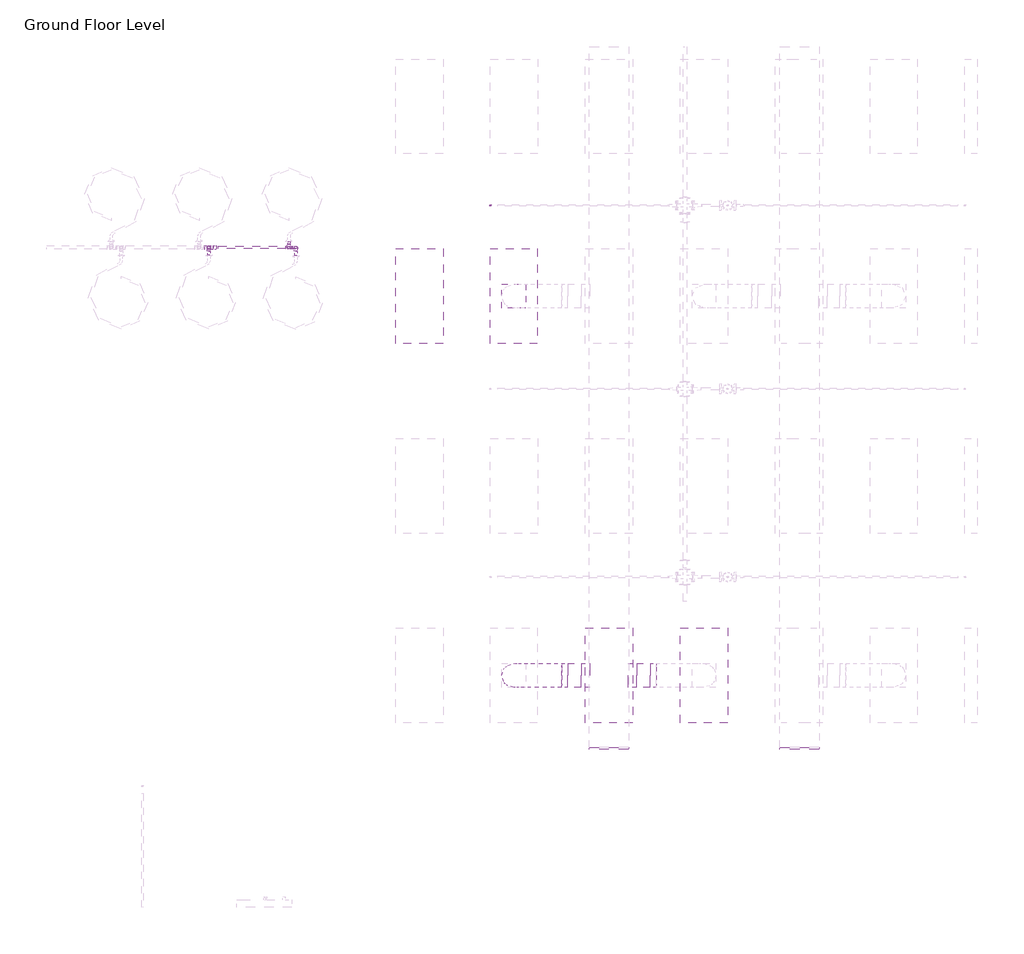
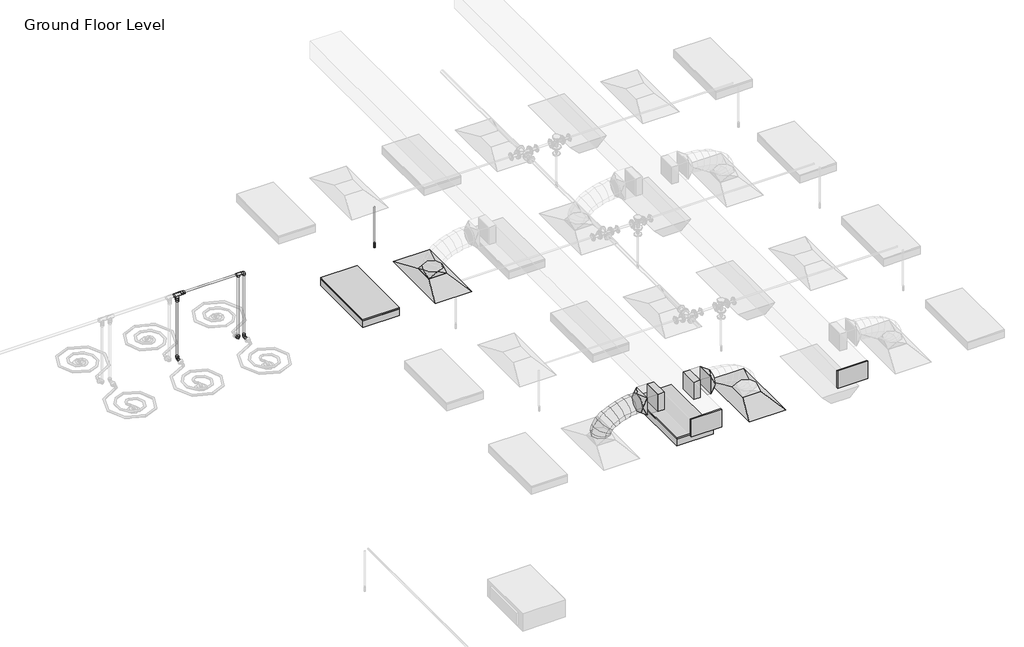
# One storey, part 43 of 66: 9 pipe segments, 8 pipe fittings, 7 duct fittings, 3 duct segments, 2 air terminals, 2 light fixtures, 1 fire suppression terminal.
"""IFC4 building model written with IfcOpenShell, lengths in millimetres."""

from ifc_helpers import new_model, si_unit, point, frame, frame_2d, origin, place, context, project, spatial, polyline, circle_curve, ellipse_curve, trimmed, segment, composite_curve, outline, extrude, transform, mapped, element, save
from ifc_brep_helpers import plane_surface, cylinder_surface, advanced_brep
from components import m_return_diffuser_1200x600_1200_x_600_face_300_x_300_d1983ef6, m_rectangular_endcap_standard_72d4d00d, m_rectangular_takeoff_standard_cb0ccb98, m_rectangular_takeoff_standard_2be5eba1, m_rectangular_to_round_transition_angle_45_degree_641efff0, m_sprinkler_dry_pendent_hosted_15_mm_dry_pendent_9bda8e11, m_troffer_light_parabolic_rectangular1_0600x1200mm_4_lamp_86473d4a, standard_517a5a8d, standard_72b35c3b, standard_08ff6011, standard_d0d0b892

model = new_model("IFC4")

# Units and contexts
model_context = context("Model", 3, world=origin())
ifc_project = project(units=[si_unit("LENGTHUNIT", "METRE", prefix="MILLI")], contexts=[model_context])

# Site, building, storey
site = spatial("IfcSite", under=ifc_project)
building = spatial("IfcBuilding", under=site)
storey = spatial("IfcBuildingStorey", under=building, Name="Ground Floor Level", Elevation=900.0)

# Air terminals
placement = place(None, origin())
m_return_diffuser_1200x600_1200_x_600_face_300_x_300_shape = m_return_diffuser_1200x600_1200_x_600_face_300_x_300_d1983ef6(model_context)
element("IfcAirTerminal", 1, ObjectType="M_Supply Diffuser 1200x600 : 1200 x 600 Face 300 x 300 Connection", at=placement, inside=storey, context=model_context, shape_type="MappedRepresentation", body=[
    mapped(m_return_diffuser_1200x600_1200_x_600_face_300_x_300_shape, transform((-8142.6846929, 6435.2153534, 3650.0), x_axis=(0.0, 1.0, 0.0), y_axis=(-1.0, 0.0, 0.0), z_axis=(0.0, 0.0, 1.0))),
])
element("IfcAirTerminal", 2, ObjectType="M_Supply Diffuser 1200x600 : 1200 x 600 Face 300 x 300 Connection", at=placement, inside=storey, context=model_context, shape_type="MappedRepresentation", body=[
    mapped(m_return_diffuser_1200x600_1200_x_600_face_300_x_300_shape, transform((-5737.2327605, 1635.2153534, 3650.0), x_axis=(0.0, 1.0, 0.0), y_axis=(-1.0, 0.0, 0.0), z_axis=(0.0, 0.0, 1.0))),
])

# Duct fittings
m_rectangular_endcap_standard_shape = m_rectangular_endcap_standard_72d4d00d(model_context)
element("IfcDuctFitting", 3, ObjectType="M_Rectangular Endcap : Standard", at=placement, inside=storey, context=model_context, shape_type="MappedRepresentation", body=[
    mapped(m_rectangular_endcap_standard_shape, transform((-4528.6910789, 725.2312455, 4150.0403557), x_axis=(0.0, -0.999999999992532, 3.864729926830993e-06), y_axis=(1.0, 0.0, 0.0), z_axis=(0.0, 3.864729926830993e-06, 0.999999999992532))),
])
element("IfcDuctFitting", 4, ObjectType="M_Rectangular Endcap : Standard", at=placement, inside=storey, context=model_context, shape_type="MappedRepresentation", body=[
    mapped(m_rectangular_endcap_standard_shape, transform((-6939.6910789, 725.2153534, 4150.0), x_axis=(0.0, -1.0, 0.0), y_axis=(1.0, 0.0, 0.0), z_axis=(0.0, 0.0, 1.0))),
])
m_rectangular_takeoff_standard_shape = m_rectangular_takeoff_standard_cb0ccb98(model_context)
element("IfcDuctFitting", 5, ObjectType="M_Rectangular Takeoff : Standard", at=placement, inside=storey, context=model_context, shape_type="MappedRepresentation", body=[
    mapped(m_rectangular_takeoff_standard_shape, transform((-6689.6910789, 1635.2153534, 4150.0), x_axis=(1.0, 0.0, 0.0), y_axis=(0.0, -1.0, 0.0), z_axis=(0.0, 0.0, -1.0))),
])
m_rectangular_takeoff_standard_2_shape = m_rectangular_takeoff_standard_2be5eba1(model_context)
element("IfcDuctFitting", 6, ObjectType="M_Rectangular Takeoff : Standard", at=placement, inside=storey, context=model_context, shape_type="MappedRepresentation", body=[
    mapped(m_rectangular_takeoff_standard_2_shape, transform((-7189.6910789, 1635.2153534, 4150.0), x_axis=(-1.0, 0.0, 0.0), y_axis=(0.0, 1.0, 0.0), z_axis=(0.0, 0.0, -1.0))),
])
m_rectangular_to_round_transition_angle_45_degree_shape = m_rectangular_to_round_transition_angle_45_degree_641efff0(model_context)
element("IfcDuctFitting", 7, ObjectType="M_Rectangular to Round Transition - Angle : 45 Degree", at=placement, inside=storey, context=model_context, shape_type="MappedRepresentation", body=[
    mapped(m_rectangular_to_round_transition_angle_45_degree_shape, transform((-8142.6846929, 6435.2153534, 3751.6), x_axis=(0.0, 0.0, 1.0), y_axis=(-1.0, 0.0, 0.0), z_axis=(0.0, -1.0, 0.0))),
])
element("IfcDuctFitting", 8, ObjectType="M_Rectangular to Round Transition - Angle : 45 Degree", at=placement, inside=storey, context=model_context, shape_type="MappedRepresentation", body=[
    mapped(m_rectangular_to_round_transition_angle_45_degree_shape, transform((-7461.2487616, 1635.2153534, 4150.0), x_axis=(-1.0, 0.0, 0.0), y_axis=(0.0, -1.0, 0.0), z_axis=(0.0, 0.0, 1.0))),
])
element("IfcDuctFitting", 9, ObjectType="M_Rectangular to Round Transition - Angle : 45 Degree", at=placement, inside=storey, context=model_context, shape_type="MappedRepresentation", body=[
    mapped(m_rectangular_to_round_transition_angle_45_degree_shape, transform((-6418.6686918, 1635.2153534, 4150.0), x_axis=(1.0, 0.0, 0.0), y_axis=(0.0, 1.0, 0.0), z_axis=(0.0, 0.0, 1.0))),
])

# Duct segments
element("IfcDuctSegment", 10, ObjectType="Flex - Round", at=placement, inside=storey, context=model_context, shape_type="AdvancedBrep", body=[
    advanced_brep(
    [(-7992.6846929, 1635.2153534, 3826.6), (-8142.6846929, 1485.2153534, 3826.6), (-8292.6846929, 1635.2153534, 3826.6), (-8142.6846929, 1785.2153534, 3826.6), (-7992.6846929, 1635.2153534, 3832.4838104), (-8142.6846929, 1485.2153534, 3857.3049615), (-8292.6846929, 1635.2153534, 3882.1261126), (-8142.6846929, 1785.2153534, 3857.3049615), (-7990.555208, 1635.2153534, 3838.7421096), (-8126.0232883, 1485.2153534, 3906.2708192), (-8261.4913687, 1635.2153534, 3973.7995287), (-8126.0232883, 1785.2153534, 3906.2708192), (-7968.5331802, 1635.2153534, 3871.1472855), (-8080.1452707, 1485.2153534, 3973.7798261), (-8191.7573612, 1635.2153534, 4076.4123668), (-8080.1452707, 1785.2153534, 3973.7798261), (-7928.5904556, 1635.2153534, 3903.4915826), (-8011.2099341, 1485.2153534, 4029.6013814), (-8093.8294126, 1635.2153534, 4155.7111802), (-8011.2099341, 1785.2153534, 4029.6013814), (-7865.6682729, 1635.2153534, 3936.1928758), (-7925.3765727, 1485.2153534, 4074.2098454), (-7985.0848725, 1635.2153534, 4212.226815), (-7925.3765727, 1785.2153534, 4074.2098454), (-7786.815881, 1635.2153534, 3963.8479616), (-7828.8044806, 1485.2153534, 4108.0795788), (-7870.7930803, 1635.2153534, 4252.311196), (-7828.8044806, 1785.2153534, 4108.0795788), (-7700.2438983, 1635.2153534, 3984.0509494), (-7727.652952, 1485.2153534, 4131.684942), (-7755.0620057, 1635.2153534, 4279.3189347), (-7727.652952, 1785.2153534, 4131.684942), (-7613.759715, 1635.2153534, 3996.0504424), (-7628.081281, 1485.2153534, 4145.5002956), (-7642.4028469, 1635.2153534, 4294.9501488), (-7628.081281, 1785.2153534, 4145.5002956), (-7539.5984134, 1635.2153534, 4000.0), (-7543.5898089, 1485.2153534, 4150.0), (-7547.5812043, 1635.2153534, 4300.0), (-7543.5898089, 1785.2153534, 4150.0), (-7536.2487616, 1635.2153534, 4000.0), (-7536.2487616, 1785.2153534, 4150.0), (-7536.2487616, 1635.2153534, 4300.0), (-7536.2487616, 1485.2153534, 4150.0)],
    [
        (0, 1, circle_curve(frame((-8142.6846929, 1635.2153534, 3826.6), z_axis=(0.0, 0.0, -1.0), x_axis=(1.0, 0.0, 0.0)), 150.0)),
        (1, 2, circle_curve(frame((-8142.6846929, 1635.2153534, 3826.6), z_axis=(0.0, 0.0, -1.0), x_axis=(1.0, 0.0, 0.0)), 150.0)),
        (2, 3, circle_curve(frame((-8142.6846929, 1635.2153534, 3826.6), z_axis=(0.0, 0.0, -1.0), x_axis=(1.0, 0.0, 0.0)), 150.0)),
        (3, 0, circle_curve(frame((-8142.6846929, 1635.2153534, 3826.6), z_axis=(0.0, 0.0, -1.0), x_axis=(1.0, 0.0, 0.0)), 150.0)),
        (0, 4),
        (4, 5, ellipse_curve(frame((-8142.6846929, 1635.2153534, 3857.3049615), z_axis=(-0.1632543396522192, 0.0, -0.9865840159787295), x_axis=(0.9865840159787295, 0.0, -0.16325433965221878)), 152.039763, 150.0)),
        (5, 1),
        (5, 6, ellipse_curve(frame((-8142.6846929, 1635.2153534, 3857.3049615), z_axis=(-0.1632543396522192, 0.0, -0.9865840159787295), x_axis=(0.9865840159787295, 0.0, -0.16325433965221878)), 152.039763, 150.0)),
        (6, 2),
        (6, 7, ellipse_curve(frame((-8142.6846929, 1635.2153534, 3857.3049615), z_axis=(-0.1632543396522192, 0.0, -0.9865840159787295), x_axis=(0.9865840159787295, 0.0, -0.16325433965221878)), 152.039763, 150.0)),
        (7, 3),
        (7, 4, ellipse_curve(frame((-8142.6846929, 1635.2153534, 3857.3049615), z_axis=(-0.1632543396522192, 0.0, -0.9865840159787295), x_axis=(0.9865840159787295, 0.0, -0.16325433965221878)), 152.039763, 150.0)),
        (4, 8),
        (8, 9, ellipse_curve(frame((-8126.0232883, 1635.2153534, 3906.2708192), z_axis=(-0.44612805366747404, 0.0, -0.8949691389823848), x_axis=(0.8949691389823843, 0.0, -0.44612805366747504)), 151.366203, 150.0)),
        (9, 5),
        (9, 10, ellipse_curve(frame((-8126.0232883, 1635.2153534, 3906.2708192), z_axis=(-0.44612805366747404, 0.0, -0.8949691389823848), x_axis=(0.8949691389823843, 0.0, -0.44612805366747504)), 151.366203, 150.0)),
        (10, 6),
        (10, 11, ellipse_curve(frame((-8126.0232883, 1635.2153534, 3906.2708192), z_axis=(-0.44612805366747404, 0.0, -0.8949691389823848), x_axis=(0.8949691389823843, 0.0, -0.44612805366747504)), 151.366203, 150.0)),
        (11, 7),
        (11, 8, ellipse_curve(frame((-8126.0232883, 1635.2153534, 3906.2708192), z_axis=(-0.44612805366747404, 0.0, -0.8949691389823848), x_axis=(0.8949691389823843, 0.0, -0.44612805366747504)), 151.366203, 150.0)),
        (8, 12),
        (12, 13, ellipse_curve(frame((-8080.1452707, 1635.2153534, 3973.7798261), z_axis=(-0.6768758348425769, 0.0, -0.7360972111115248), x_axis=(0.7360972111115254, 0.0, -0.6768758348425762)), 151.6268352, 150.0)),
        (13, 9),
        (13, 14, ellipse_curve(frame((-8080.1452707, 1635.2153534, 3973.7798261), z_axis=(-0.6768758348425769, 0.0, -0.7360972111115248), x_axis=(0.7360972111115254, 0.0, -0.6768758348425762)), 151.6268352, 150.0)),
        (14, 10),
        (14, 15, ellipse_curve(frame((-8080.1452707, 1635.2153534, 3973.7798261), z_axis=(-0.6768758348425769, 0.0, -0.7360972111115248), x_axis=(0.7360972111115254, 0.0, -0.6768758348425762)), 151.6268352, 150.0)),
        (15, 11),
        (15, 12, ellipse_curve(frame((-8080.1452707, 1635.2153534, 3973.7798261), z_axis=(-0.6768758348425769, 0.0, -0.7360972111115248), x_axis=(0.7360972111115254, 0.0, -0.6768758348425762)), 151.6268352, 150.0)),
        (12, 16),
        (16, 17, ellipse_curve(frame((-8011.2099341, 1635.2153534, 4029.6013814), z_axis=(-0.8364738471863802, 0.0, -0.5480068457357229), x_axis=(0.5480068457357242, 0.0, -0.8364738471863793)), 150.7635884, 150.0)),
        (17, 13),
        (17, 18, ellipse_curve(frame((-8011.2099341, 1635.2153534, 4029.6013814), z_axis=(-0.8364738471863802, 0.0, -0.5480068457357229), x_axis=(0.5480068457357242, 0.0, -0.8364738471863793)), 150.7635884, 150.0)),
        (18, 14),
        (18, 19, ellipse_curve(frame((-8011.2099341, 1635.2153534, 4029.6013814), z_axis=(-0.8364738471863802, 0.0, -0.5480068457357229), x_axis=(0.5480068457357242, 0.0, -0.8364738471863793)), 150.7635884, 150.0)),
        (19, 15),
        (19, 16, ellipse_curve(frame((-8011.2099341, 1635.2153534, 4029.6013814), z_axis=(-0.8364738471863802, 0.0, -0.5480068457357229), x_axis=(0.5480068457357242, 0.0, -0.8364738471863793)), 150.7635884, 150.0)),
        (16, 20),
        (20, 21, ellipse_curve(frame((-7925.3765727, 1635.2153534, 4074.2098454), z_axis=(-0.9177957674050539, 0.0, -0.39705280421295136), x_axis=(0.39705280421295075, 0.0, -0.9177957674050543)), 150.3787384, 150.0)),
        (21, 17),
        (21, 22, ellipse_curve(frame((-7925.3765727, 1635.2153534, 4074.2098454), z_axis=(-0.9177957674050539, 0.0, -0.39705280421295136), x_axis=(0.39705280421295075, 0.0, -0.9177957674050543)), 150.3787384, 150.0)),
        (22, 18),
        (22, 23, ellipse_curve(frame((-7925.3765727, 1635.2153534, 4074.2098454), z_axis=(-0.9177957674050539, 0.0, -0.39705280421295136), x_axis=(0.39705280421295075, 0.0, -0.9177957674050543)), 150.3787384, 150.0)),
        (23, 19),
        (23, 20, ellipse_curve(frame((-7925.3765727, 1635.2153534, 4074.2098454), z_axis=(-0.9177957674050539, 0.0, -0.39705280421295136), x_axis=(0.39705280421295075, 0.0, -0.9177957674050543)), 150.3787384, 150.0)),
        (20, 24),
        (24, 25, ellipse_curve(frame((-7828.8044806, 1635.2153534, 4108.0795788), z_axis=(-0.9601411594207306, 0.0, -0.2795155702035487), x_axis=(0.27951557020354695, 0.0, -0.9601411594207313)), 150.2191795, 150.0)),
        (25, 21),
        (25, 26, ellipse_curve(frame((-7828.8044806, 1635.2153534, 4108.0795788), z_axis=(-0.9601411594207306, 0.0, -0.2795155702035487), x_axis=(0.27951557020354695, 0.0, -0.9601411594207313)), 150.2191795, 150.0)),
        (26, 22),
        (26, 27, ellipse_curve(frame((-7828.8044806, 1635.2153534, 4108.0795788), z_axis=(-0.9601411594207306, 0.0, -0.2795155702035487), x_axis=(0.27951557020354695, 0.0, -0.9601411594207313)), 150.2191795, 150.0)),
        (27, 23),
        (27, 24, ellipse_curve(frame((-7828.8044806, 1635.2153534, 4108.0795788), z_axis=(-0.9601411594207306, 0.0, -0.2795155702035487), x_axis=(0.27951557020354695, 0.0, -0.9601411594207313)), 150.2191795, 150.0)),
        (24, 28),
        (28, 29, ellipse_curve(frame((-7727.652952, 1635.2153534, 4131.684942), z_axis=(-0.9831991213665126, 0.0, -0.1825362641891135), x_axis=(0.1825362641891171, 0.0, -0.9831991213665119)), 150.1567581, 150.0)),
        (29, 25),
        (29, 30, ellipse_curve(frame((-7727.652952, 1635.2153534, 4131.684942), z_axis=(-0.9831991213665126, 0.0, -0.1825362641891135), x_axis=(0.1825362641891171, 0.0, -0.9831991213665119)), 150.1567581, 150.0)),
        (30, 26),
        (30, 31, ellipse_curve(frame((-7727.652952, 1635.2153534, 4131.684942), z_axis=(-0.9831991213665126, 0.0, -0.1825362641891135), x_axis=(0.1825362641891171, 0.0, -0.9831991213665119)), 150.1567581, 150.0)),
        (31, 27),
        (31, 28, ellipse_curve(frame((-7727.652952, 1635.2153534, 4131.684942), z_axis=(-0.9831991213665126, 0.0, -0.1825362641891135), x_axis=(0.1825362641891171, 0.0, -0.9831991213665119)), 150.1567581, 150.0)),
        (28, 32),
        (32, 33, ellipse_curve(frame((-7628.081281, 1635.2153534, 4145.5002956), z_axis=(-0.9954398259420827, 0.0, -0.09539157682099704), x_axis=(0.09539157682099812, 0.0, -0.9954398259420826)), 150.1344926, 150.0)),
        (33, 29),
        (33, 34, ellipse_curve(frame((-7628.081281, 1635.2153534, 4145.5002956), z_axis=(-0.9954398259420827, 0.0, -0.09539157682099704), x_axis=(0.09539157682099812, 0.0, -0.9954398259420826)), 150.1344926, 150.0)),
        (34, 30),
        (34, 35, ellipse_curve(frame((-7628.081281, 1635.2153534, 4145.5002956), z_axis=(-0.9954398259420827, 0.0, -0.09539157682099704), x_axis=(0.09539157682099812, 0.0, -0.9954398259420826)), 150.1344926, 150.0)),
        (35, 31),
        (35, 32, ellipse_curve(frame((-7628.081281, 1635.2153534, 4145.5002956), z_axis=(-0.9954398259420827, 0.0, -0.09539157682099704), x_axis=(0.09539157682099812, 0.0, -0.9954398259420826)), 150.1344926, 150.0)),
        (32, 36),
        (36, 37, ellipse_curve(frame((-7543.5898089, 1635.2153534, 4150.0), z_axis=(-0.9996461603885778, 0.0, -0.026599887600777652), x_axis=(0.026599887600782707, 0.0, -0.9996461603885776)), 150.0530947, 150.0)),
        (37, 33),
        (37, 38, ellipse_curve(frame((-7543.5898089, 1635.2153534, 4150.0), z_axis=(-0.9996461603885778, 0.0, -0.026599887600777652), x_axis=(0.026599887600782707, 0.0, -0.9996461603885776)), 150.0530947, 150.0)),
        (38, 34),
        (38, 39, ellipse_curve(frame((-7543.5898089, 1635.2153534, 4150.0), z_axis=(-0.9996461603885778, 0.0, -0.026599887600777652), x_axis=(0.026599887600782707, 0.0, -0.9996461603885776)), 150.0530947, 150.0)),
        (39, 35),
        (39, 36, ellipse_curve(frame((-7543.5898089, 1635.2153534, 4150.0), z_axis=(-0.9996461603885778, 0.0, -0.026599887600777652), x_axis=(0.026599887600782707, 0.0, -0.9996461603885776)), 150.0530947, 150.0)),
        (40, 41, circle_curve(frame((-7536.2487616, 1635.2153534, 4150.0), z_axis=(1.0, 0.0, 0.0), x_axis=(0.0, 0.0, -1.0)), 150.0)),
        (41, 42, circle_curve(frame((-7536.2487616, 1635.2153534, 4150.0), z_axis=(1.0, 0.0, 0.0), x_axis=(0.0, 0.0, -1.0)), 150.0)),
        (42, 43, circle_curve(frame((-7536.2487616, 1635.2153534, 4150.0), z_axis=(1.0, 0.0, 0.0), x_axis=(0.0, 0.0, -1.0)), 150.0)),
        (43, 40, circle_curve(frame((-7536.2487616, 1635.2153534, 4150.0), z_axis=(1.0, 0.0, 0.0), x_axis=(0.0, 0.0, -1.0)), 150.0)),
        (36, 40),
        (43, 37),
        (42, 38),
        (41, 39),
    ],
    [
        plane_surface(frame((-8142.6846929, 1485.2153534, 3826.6), z_axis=(0.0, 0.0, -1.0), x_axis=(1.0, 0.0, 0.0))),
        cylinder_surface(frame((-8142.6846929, 1635.2153534, 3826.6), z_axis=(0.0, 0.0, -1.0), x_axis=(1.0, 0.0, 0.0)), 150.0),
        cylinder_surface(frame((-8142.6846929, 1635.2153534, 3857.3049615), z_axis=(-0.32212824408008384, 0.0, -0.9466960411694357), x_axis=(0.9466960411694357, 0.0, -0.32212824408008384)), 150.0),
        cylinder_surface(frame((-8126.0232883, 1635.2153534, 3906.2708192), z_axis=(-0.5620745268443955, 0.0, -0.8270865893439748), x_axis=(0.8270865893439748, 0.0, -0.5620745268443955)), 150.0),
        cylinder_surface(frame((-8080.1452707, 1635.2153534, 3973.7798261), z_axis=(-0.777152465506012, 0.0, -0.6293123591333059), x_axis=(0.6293123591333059, 0.0, -0.777152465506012)), 150.0),
        cylinder_surface(frame((-8011.2099341, 1635.2153534, 4029.6013814), z_axis=(-0.887322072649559, 0.0, -0.4611502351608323), x_axis=(0.4611502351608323, 0.0, -0.887322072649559)), 150.0),
        cylinder_surface(frame((-7925.3765727, 1635.2153534, 4074.2098454), z_axis=(-0.9436464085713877, 0.0, -0.3309553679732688), x_axis=(0.3309553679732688, 0.0, -0.9436464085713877)), 150.0),
        cylinder_surface(frame((-7828.8044806, 1635.2153534, 4108.0795788), z_axis=(-0.9738340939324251, 0.0, -0.22726010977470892), x_axis=(0.22726010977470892, 0.0, -0.9738340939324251)), 150.0),
        cylinder_surface(frame((-7727.652952, 1635.2153534, 4131.684942), z_axis=(-0.9905113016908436, 0.0, -0.137431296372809), x_axis=(0.137431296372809, 0.0, -0.9905113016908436)), 150.0),
        cylinder_surface(frame((-7628.081281, 1635.2153534, 4145.5002956), z_axis=(-0.998584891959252, 0.0, -0.05318095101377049), x_axis=(0.05318095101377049, 0.0, -0.998584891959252)), 150.0),
        plane_surface(frame((-7536.2487616, 1635.2153534, 4000.0), z_axis=(1.0, 0.0, 0.0), x_axis=(0.0, 1.0, 0.0))),
        cylinder_surface(frame((-7543.5898089, 1635.2153534, 4150.0), z_axis=(-1.0, 0.0, 0.0), x_axis=(0.0, 0.0, -1.0)), 150.0),
    ],
    [
        (0, [[1, 2, 3, 4]]),
        (1, [[-1, 5, 6, 7]]),
        (1, [[-2, -7, 8, 9]]),
        (1, [[-3, -9, 10, 11]]),
        (1, [[-4, -11, 12, -5]]),
        (2, [[-6, 13, 14, 15]]),
        (2, [[-8, -15, 16, 17]]),
        (2, [[-10, -17, 18, 19]]),
        (2, [[-12, -19, 20, -13]]),
        (3, [[-14, 21, 22, 23]]),
        (3, [[-16, -23, 24, 25]]),
        (3, [[-18, -25, 26, 27]]),
        (3, [[-20, -27, 28, -21]]),
        (4, [[-22, 29, 30, 31]]),
        (4, [[-24, -31, 32, 33]]),
        (4, [[-26, -33, 34, 35]]),
        (4, [[-28, -35, 36, -29]]),
        (5, [[-30, 37, 38, 39]]),
        (5, [[-32, -39, 40, 41]]),
        (5, [[-34, -41, 42, 43]]),
        (5, [[-36, -43, 44, -37]]),
        (6, [[-38, 45, 46, 47]]),
        (6, [[-40, -47, 48, 49]]),
        (6, [[-42, -49, 50, 51]]),
        (6, [[-44, -51, 52, -45]]),
        (7, [[-46, 53, 54, 55]]),
        (7, [[-48, -55, 56, 57]]),
        (7, [[-50, -57, 58, 59]]),
        (7, [[-52, -59, 60, -53]]),
        (8, [[-54, 61, 62, 63]]),
        (8, [[-56, -63, 64, 65]]),
        (8, [[-58, -65, 66, 67]]),
        (8, [[-60, -67, 68, -61]]),
        (9, [[-62, 69, 70, 71]]),
        (9, [[-64, -71, 72, 73]]),
        (9, [[-66, -73, 74, 75]]),
        (9, [[-68, -75, 76, -69]]),
        (10, [[77, 78, 79, 80]]),
        (11, [[-70, 81, -80, 82]]),
        (11, [[-72, -82, -79, 83]]),
        (11, [[-74, -83, -78, 84]]),
        (11, [[-76, -84, -77, -81]]),
    ],
),
])
element("IfcDuctSegment", 11, ObjectType="Radius Elbows / Taps", at=placement, inside=storey, context=model_context, shape_type="SweptSolid", body=[
    extrude(outline(polyline([(-7291.2910789, 1785.2153534), (-7291.2910789, 1485.2153534), (-7461.2487616, 1485.2153534), (-7461.2487616, 1785.2153534), (-7291.2910789, 1785.2153534)])), frame((0.0, 0.0, 4000.0), z_axis=(0.0, 0.0, 1.0), x_axis=(1.0, 0.0, 0.0)), (0.0, 0.0, 1.0), 300.0),
])
element("IfcDuctSegment", 12, ObjectType="Radius Elbows / Taps", at=placement, inside=storey, context=model_context, shape_type="SweptSolid", body=[
    extrude(outline(polyline([(-6588.0910789, 1485.2153534), (-6588.0910789, 1785.2153534), (-6418.6686918, 1785.2153534), (-6418.6686918, 1485.2153534), (-6588.0910789, 1485.2153534)])), frame((0.0, 0.0, 4000.0), z_axis=(0.0, 0.0, 1.0), x_axis=(1.0, 0.0, 0.0)), (0.0, 0.0, 1.0), 300.0),
])

# Fire suppression terminal
m_sprinkler_dry_pendent_hosted_15_mm_dry_pendent_shape = m_sprinkler_dry_pendent_hosted_15_mm_dry_pendent_9bda8e11(model_context)
element("IfcFireSuppressionTerminal", 13, ObjectType="M_Sprinkler - Dry - Pendent - Hosted : 15 mm Dry Pendent", at=placement, inside=storey, context=model_context, shape_type="MappedRepresentation", body=[
    mapped(m_sprinkler_dry_pendent_hosted_15_mm_dry_pendent_shape, transform((-8437.2327605, 7582.7040742, 3650.0), x_axis=(1.0, 0.0, 0.0), y_axis=(0.0, -1.0, 0.0), z_axis=(0.0, 0.0, -1.0))),
])

# Light fixtures
m_troffer_light_parabolic_rectangular1_0600x1200mm_4_lamp_shape = m_troffer_light_parabolic_rectangular1_0600x1200mm_4_lamp_86473d4a(model_context)
element("IfcLightFixture", 14, ObjectType="M_Troffer Light - Parabolic Rectangular1 : 0600x1200mm(4 Lamp) - 277V 2", at=placement, inside=storey, context=model_context, shape_type="MappedRepresentation", body=[
    mapped(m_troffer_light_parabolic_rectangular1_0600x1200mm_4_lamp_shape, transform((-9396.6986926, 6453.918855, 3650.0), x_axis=(0.0, 1.0, 0.0), y_axis=(-1.0, 0.0, 0.0), z_axis=(0.0, 0.0, 1.0))),
])
element("IfcLightFixture", 15, ObjectType="M_Troffer Light - Parabolic Rectangular1 : 0600x1200mm(4 Lamp) - 277V 2", at=placement, inside=storey, context=model_context, shape_type="MappedRepresentation", body=[
    mapped(m_troffer_light_parabolic_rectangular1_0600x1200mm_4_lamp_shape, transform((-6996.6986926, 1653.918855, 3650.0), x_axis=(0.0, 1.0, 0.0), y_axis=(-1.0, 0.0, 0.0), z_axis=(0.0, 0.0, 1.0))),
])

# Pipe fittings
standard_shape = standard_517a5a8d(model_context)
element("IfcPipeFitting", 16, ObjectType="M_Elbow - CPVC - Sch 40 : Standard", at=placement, inside=storey, context=model_context, shape_type="MappedRepresentation", body=[
    mapped(standard_shape, transform((-11997.2327605, 7049.9865561, 3200.0), x_axis=(0.0, 0.0, -1.0), y_axis=(0.0, -1.0, 0.0), z_axis=(-1.0, 0.0, 0.0))),
])
element("IfcPipeFitting", 17, ObjectType="M_Elbow - CPVC - Sch 40 : Standard", at=placement, inside=storey, context=model_context, shape_type="MappedRepresentation", body=[
    mapped(standard_shape, transform((-10987.2327605, 7049.9865561, 3200.0), x_axis=(0.0, 0.0, -1.0), y_axis=(0.0, 1.0, 0.0), z_axis=(1.0, 0.0, 0.0))),
])
element("IfcPipeFitting", 18, ObjectType="M_Elbow - CPVC - Sch 40 : Standard", at=placement, inside=storey, context=model_context, shape_type="MappedRepresentation", body=[
    mapped(standard_shape, transform((-10897.2327605, 7049.9865561, 3200.0), x_axis=(0.0, 0.0, -1.0), y_axis=(0.0, -1.0, 0.0), z_axis=(-1.0, 0.0, 0.0))),
])
element("IfcPipeFitting", 19, ObjectType="M_Elbow - CPVC - Sch 40 : Standard", at=placement, inside=storey, context=model_context, shape_type="MappedRepresentation", body=[
    mapped(standard_shape, transform((-10897.2327605, 7049.9865561, 4315.0), x_axis=(1.0, 0.0, 0.0), y_axis=(0.0, 0.0, -1.0), z_axis=(0.0, 1.0, 0.0))),
])
standard_2_shape = standard_72b35c3b(model_context)
element("IfcPipeFitting", 20, ObjectType="M_Tee - CPVC - Sch 40 : Standard", at=placement, inside=storey, context=model_context, shape_type="MappedRepresentation", body=[
    mapped(standard_2_shape, transform((-10987.2327605, 7049.9865561, 4315.0), x_axis=(-1.0, 0.0, 0.0), y_axis=(0.0, 0.0, 1.0), z_axis=(0.0, 1.0, 0.0))),
])
standard_3_shape = standard_08ff6011(model_context)
element("IfcPipeFitting", 21, ObjectType="M_Tee - CPVC - Sch 40 : Standard", at=placement, inside=storey, context=model_context, shape_type="MappedRepresentation", body=[
    mapped(standard_3_shape, transform((-11997.2327605, 7049.9865561, 4315.0), x_axis=(-1.0, 0.0, 0.0), y_axis=(0.0, 0.0, 1.0), z_axis=(0.0, 1.0, 0.0))),
])
standard_4_shape = standard_d0d0b892(model_context)
element("IfcPipeFitting", 22, ObjectType="M_Coupling Reducing - CPVC - Sch 40 : Standard", at=placement, inside=storey, context=model_context, shape_type="MappedRepresentation", body=[
    mapped(standard_4_shape, transform((-11997.2327605, 7049.9865561, 4261.025), x_axis=(0.0, 0.0, -1.0), y_axis=(1.0, 0.0, 0.0), z_axis=(0.0, -1.0, 0.0))),
])
element("IfcPipeFitting", 23, ObjectType="M_Coupling Reducing - CPVC - Sch 40 : Standard", at=placement, inside=storey, context=model_context, shape_type="MappedRepresentation", body=[
    mapped(standard_4_shape, transform((-11943.2577605, 7049.9865561, 4315.0), x_axis=(1.0, 0.0, 0.0), y_axis=(0.0, 1.0, 0.0), z_axis=(0.0, 0.0, 1.0))),
])

# Pipe segments
element("IfcPipeSegment", 24, ObjectType="CPVC", at=placement, inside=storey, context=model_context, shape_type="SweptSolid", body=[
    extrude(outline(composite_curve([segment(trimmed(circle_curve(frame_2d((3200.0, -11997.2327605)), 16.7005), [point((3200.0, -12013.9332605))], [point((3183.2995, -11997.2327605))], False, "CARTESIAN"), True, "CONTINUOUS"), segment(trimmed(circle_curve(frame_2d((3200.0, -11997.2327605)), 16.7005), [point((3183.2995, -11997.2327605))], [point((3200.0, -11980.5322605))], False, "CARTESIAN"), True, "CONTINUOUS"), segment(trimmed(circle_curve(frame_2d((3200.0, -11997.2327605)), 16.7005), [point((3200.0, -11980.5322605))], [point((3216.7005, -11997.2327605))], False, "CARTESIAN"), True, "CONTINUOUS"), segment(trimmed(circle_curve(frame_2d((3200.0, -11997.2327605)), 16.7005), [point((3216.7005, -11997.2327605))], [point((3200.0, -12013.9332605))], False, "CARTESIAN"), True, "CONTINUOUS")], self_intersect=False)), frame((0.0, 6956.8347997, 0.0), z_axis=(0.0, 1.0, 0.0), x_axis=(0.0, 0.0, 1.0)), (0.0, 0.0, 1.0), 49.8892064),
])
element("IfcPipeSegment", 25, ObjectType="CPVC", at=placement, inside=storey, context=model_context, shape_type="SweptSolid", body=[
    extrude(outline(composite_curve([segment(trimmed(circle_curve(frame_2d((-11997.2327605, 7049.9865561)), 16.7005), [point((-11980.5322605, 7049.9865561))], [point((-11997.2327605, 7033.2860561))], False, "CARTESIAN"), True, "CONTINUOUS"), segment(trimmed(circle_curve(frame_2d((-11997.2327605, 7049.9865561)), 16.7005), [point((-11997.2327605, 7033.2860561))], [point((-12013.9332605, 7049.9865561))], False, "CARTESIAN"), True, "CONTINUOUS"), segment(trimmed(circle_curve(frame_2d((-11997.2327605, 7049.9865561)), 16.7005), [point((-12013.9332605, 7049.9865561))], [point((-11997.2327605, 7066.6870561))], False, "CARTESIAN"), True, "CONTINUOUS"), segment(trimmed(circle_curve(frame_2d((-11997.2327605, 7049.9865561)), 16.7005), [point((-11997.2327605, 7066.6870561))], [point((-11980.5322605, 7049.9865561))], False, "CARTESIAN"), True, "CONTINUOUS")], self_intersect=False)), frame((0.0, 0.0, 3243.26255), z_axis=(0.0, 0.0, 1.0), x_axis=(1.0, 0.0, 0.0)), (0.0, 0.0, 1.0), 951.643575),
])
element("IfcPipeSegment", 26, ObjectType="CPVC", at=placement, inside=storey, context=model_context, shape_type="SweptSolid", body=[
    extrude(outline(composite_curve([segment(trimmed(circle_curve(frame_2d((3200.0, -10987.2327605)), 16.7005), [point((3200.0, -10970.5322605))], [point((3216.7005, -10987.2327605))], False, "CARTESIAN"), True, "CONTINUOUS"), segment(trimmed(circle_curve(frame_2d((3200.0, -10987.2327605)), 16.7005), [point((3216.7005, -10987.2327605))], [point((3200.0, -11003.9332605))], False, "CARTESIAN"), True, "CONTINUOUS"), segment(trimmed(circle_curve(frame_2d((3200.0, -10987.2327605)), 16.7005), [point((3200.0, -11003.9332605))], [point((3183.2995, -10987.2327605))], False, "CARTESIAN"), True, "CONTINUOUS"), segment(trimmed(circle_curve(frame_2d((3200.0, -10987.2327605)), 16.7005), [point((3183.2995, -10987.2327605))], [point((3200.0, -10970.5322605))], False, "CARTESIAN"), True, "CONTINUOUS")], self_intersect=False)), frame((0.0, 7093.2491061, 0.0), z_axis=(0.0, 1.0, 0.0), x_axis=(0.0, 0.0, 1.0)), (0.0, 0.0, 1.0), 30.346801),
])
element("IfcPipeSegment", 27, ObjectType="CPVC", at=placement, inside=storey, context=model_context, shape_type="SweptSolid", body=[
    extrude(outline(composite_curve([segment(trimmed(circle_curve(frame_2d((-10987.2327605, 7049.9865561)), 16.7005), [point((-10970.5322605, 7049.9865561))], [point((-10987.2327605, 7033.2860561))], False, "CARTESIAN"), True, "CONTINUOUS"), segment(trimmed(circle_curve(frame_2d((-10987.2327605, 7049.9865561)), 16.7005), [point((-10987.2327605, 7033.2860561))], [point((-11003.9332605, 7049.9865561))], False, "CARTESIAN"), True, "CONTINUOUS"), segment(trimmed(circle_curve(frame_2d((-10987.2327605, 7049.9865561)), 16.7005), [point((-11003.9332605, 7049.9865561))], [point((-10987.2327605, 7066.6870561))], False, "CARTESIAN"), True, "CONTINUOUS"), segment(trimmed(circle_curve(frame_2d((-10987.2327605, 7049.9865561)), 16.7005), [point((-10987.2327605, 7066.6870561))], [point((-10970.5322605, 7049.9865561))], False, "CARTESIAN"), True, "CONTINUOUS")], self_intersect=False)), frame((0.0, 0.0, 3243.26255), z_axis=(0.0, 0.0, 1.0), x_axis=(1.0, 0.0, 0.0)), (0.0, 0.0, 1.0), 1032.03725),
])
element("IfcPipeSegment", 28, ObjectType="CPVC", at=placement, inside=storey, context=model_context, shape_type="SweptSolid", body=[
    extrude(outline(composite_curve([segment(trimmed(circle_curve(frame_2d((7049.9865561, 4315.0)), 16.7005), [point((7033.2860561, 4315.0))], [point((7049.9865561, 4331.7005))], False, "CARTESIAN"), True, "CONTINUOUS"), segment(trimmed(circle_curve(frame_2d((7049.9865561, 4315.0)), 16.7005), [point((7049.9865561, 4331.7005))], [point((7066.6870561, 4315.0))], False, "CARTESIAN"), True, "CONTINUOUS"), segment(trimmed(circle_curve(frame_2d((7049.9865561, 4315.0)), 16.7005), [point((7066.6870561, 4315.0))], [point((7049.9865561, 4298.2995))], False, "CARTESIAN"), True, "CONTINUOUS"), segment(trimmed(circle_curve(frame_2d((7049.9865561, 4315.0)), 16.7005), [point((7049.9865561, 4298.2995))], [point((7033.2860561, 4315.0))], False, "CARTESIAN"), True, "CONTINUOUS")], self_intersect=False)), frame((-11877.1388855, 0.0, 0.0), z_axis=(1.0, 0.0, 0.0), x_axis=(0.0, 1.0, 0.0)), (0.0, 0.0, 1.0), 850.205925),
])
element("IfcPipeSegment", 29, ObjectType="CPVC", at=placement, inside=storey, context=model_context, shape_type="SweptSolid", body=[
    extrude(outline(composite_curve([segment(trimmed(circle_curve(frame_2d((3200.0, -10897.2327605)), 16.7005), [point((3200.0, -10913.9332605))], [point((3183.2995, -10897.2327605))], False, "CARTESIAN"), True, "CONTINUOUS"), segment(trimmed(circle_curve(frame_2d((3200.0, -10897.2327605)), 16.7005), [point((3183.2995, -10897.2327605))], [point((3200.0, -10880.5322605))], False, "CARTESIAN"), True, "CONTINUOUS"), segment(trimmed(circle_curve(frame_2d((3200.0, -10897.2327605)), 16.7005), [point((3200.0, -10880.5322605))], [point((3216.7005, -10897.2327605))], False, "CARTESIAN"), True, "CONTINUOUS"), segment(trimmed(circle_curve(frame_2d((3200.0, -10897.2327605)), 16.7005), [point((3216.7005, -10897.2327605))], [point((3200.0, -10913.9332605))], False, "CARTESIAN"), True, "CONTINUOUS")], self_intersect=False)), frame((0.0, 6946.8347997, 0.0), z_axis=(0.0, 1.0, 0.0), x_axis=(0.0, 0.0, 1.0)), (0.0, 0.0, 1.0), 59.8892065),
])
element("IfcPipeSegment", 30, ObjectType="CPVC", at=placement, inside=storey, context=model_context, shape_type="SweptSolid", body=[
    extrude(outline(composite_curve([segment(trimmed(circle_curve(frame_2d((-10897.2327605, 7049.9865561)), 16.7005), [point((-10880.5322605, 7049.9865561))], [point((-10897.2327605, 7033.2860561))], False, "CARTESIAN"), True, "CONTINUOUS"), segment(trimmed(circle_curve(frame_2d((-10897.2327605, 7049.9865561)), 16.7005), [point((-10897.2327605, 7033.2860561))], [point((-10913.9332605, 7049.9865561))], False, "CARTESIAN"), True, "CONTINUOUS"), segment(trimmed(circle_curve(frame_2d((-10897.2327605, 7049.9865561)), 16.7005), [point((-10913.9332605, 7049.9865561))], [point((-10897.2327605, 7066.6870561))], False, "CARTESIAN"), True, "CONTINUOUS"), segment(trimmed(circle_curve(frame_2d((-10897.2327605, 7049.9865561)), 16.7005), [point((-10897.2327605, 7066.6870561))], [point((-10880.5322605, 7049.9865561))], False, "CARTESIAN"), True, "CONTINUOUS")], self_intersect=False)), frame((0.0, 0.0, 3243.26255), z_axis=(0.0, 0.0, 1.0), x_axis=(1.0, 0.0, 0.0)), (0.0, 0.0, 1.0), 1028.4749),
])
element("IfcPipeSegment", 31, ObjectType="CPVC", at=placement, inside=storey, context=model_context, shape_type="SweptSolid", body=[
    extrude(outline(composite_curve([segment(trimmed(circle_curve(frame_2d((7049.9865561, 4315.0)), 16.7005), [point((7033.2860561, 4315.0))], [point((7049.9865561, 4331.7005))], False, "CARTESIAN"), True, "CONTINUOUS"), segment(trimmed(circle_curve(frame_2d((7049.9865561, 4315.0)), 16.7005), [point((7049.9865561, 4331.7005))], [point((7066.6870561, 4315.0))], False, "CARTESIAN"), True, "CONTINUOUS"), segment(trimmed(circle_curve(frame_2d((7049.9865561, 4315.0)), 16.7005), [point((7066.6870561, 4315.0))], [point((7049.9865561, 4298.2995))], False, "CARTESIAN"), True, "CONTINUOUS"), segment(trimmed(circle_curve(frame_2d((7049.9865561, 4315.0)), 16.7005), [point((7049.9865561, 4298.2995))], [point((7033.2860561, 4315.0))], False, "CARTESIAN"), True, "CONTINUOUS")], self_intersect=False)), frame((-10947.5325605, 0.0, 0.0), z_axis=(1.0, 0.0, 0.0), x_axis=(0.0, 1.0, 0.0)), (0.0, 0.0, 1.0), 7.03725),
])
element("IfcPipeSegment", 32, ObjectType="Steel flanged", at=placement, inside=storey, context=model_context, shape_type="SweptSolid", body=[
    extrude(outline(composite_curve([segment(trimmed(circle_curve(frame_2d((-8437.2327605, 7582.7040742)), 10.668), [point((-8447.9007605, 7582.7040742))], [point((-8437.2327605, 7593.3720742))], False, "CARTESIAN"), True, "CONTINUOUS"), segment(trimmed(circle_curve(frame_2d((-8437.2327605, 7582.7040742)), 10.668), [point((-8437.2327605, 7593.3720742))], [point((-8426.5647605, 7582.7040742))], False, "CARTESIAN"), True, "CONTINUOUS"), segment(trimmed(circle_curve(frame_2d((-8437.2327605, 7582.7040742)), 10.668), [point((-8426.5647605, 7582.7040742))], [point((-8437.2327605, 7572.0360742))], False, "CARTESIAN"), True, "CONTINUOUS"), segment(trimmed(circle_curve(frame_2d((-8437.2327605, 7582.7040742)), 10.668), [point((-8437.2327605, 7572.0360742))], [point((-8447.9007605, 7582.7040742))], False, "CARTESIAN"), True, "CONTINUOUS")], self_intersect=False)), frame((0.0, 0.0, 3650.0), z_axis=(0.0, 0.0, 1.0), x_axis=(1.0, 0.0, 0.0)), (0.0, 0.0, 1.0), 616.9914062),
])

save(model, "model.ifc")
